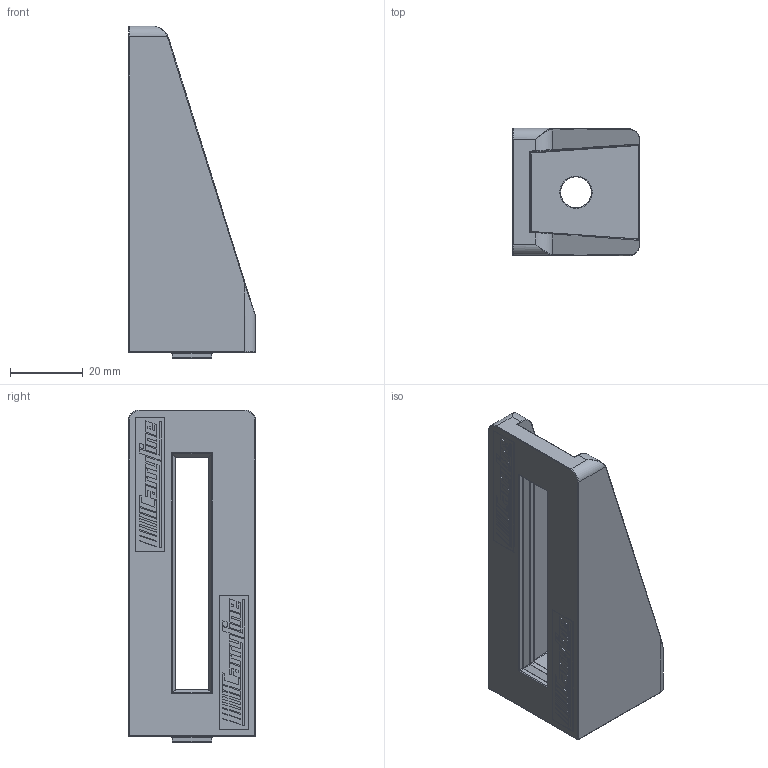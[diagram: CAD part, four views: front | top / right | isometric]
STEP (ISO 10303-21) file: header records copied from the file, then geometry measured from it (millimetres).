
FILE_DESCRIPTION((''),'2;1');
FILE_NAME('X:\Ritarkiv\STEP-Carryline Standarddelar\300-2090.stp','2009-11-02T10:05:03',('per'),(''),'Autodesk Inventor 2010','Autodesk Inventor 2010','');
FILE_SCHEMA(('AUTOMOTIVE_DESIGN { 1 0 10303 214 1 1 1 1 }'));
Length unit declared in the file: millimetre
Products named in the file (1): 300-2090
Bounding box: 35 x 35 x 91.5 mm (x, y, z)
Volume: 36251.1 mm3; surface area: 15153 mm2
Topology: 1 solids, 1 shells, 410 faces, 998 edges, 605 vertices
Faces by surface type: plane 289, cylinder 70, bspline 35, torus 8, sphere 8
Entity records: 12444 total; most frequent: CARTESIAN_POINT 2993, ORIENTED_EDGE 1936, DIRECTION 1880, EDGE_CURVE 968, VECTOR 800, LINE 800, VERTEX_POINT 604, AXIS2_PLACEMENT_3D 540
